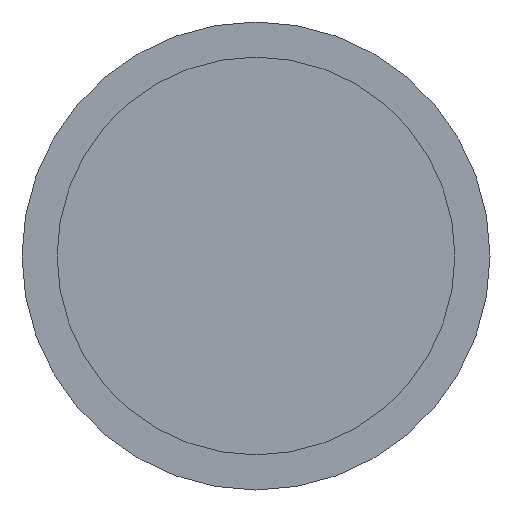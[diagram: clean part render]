
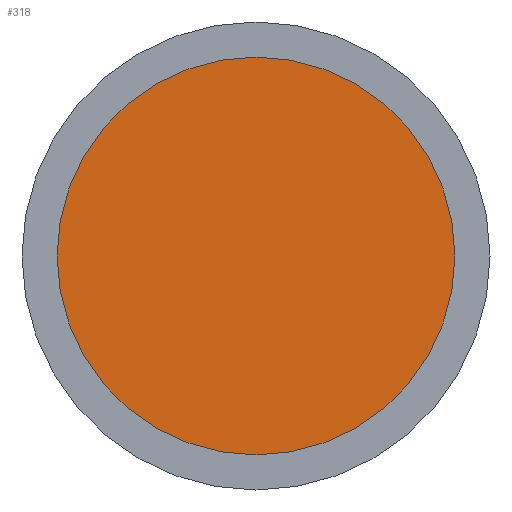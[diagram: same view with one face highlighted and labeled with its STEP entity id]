
A CAD part, left-side view. The second image highlights one B-rep face of the part: STEP entity #318.
In plain terms, the highlighted planar face has unit normal (-1, 0, 0).
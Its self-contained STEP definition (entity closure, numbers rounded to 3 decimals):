
#10 = DIRECTION ( 'NONE',  ( -1., 0., 0. ) ) ;
#56 = CARTESIAN_POINT ( 'NONE',  ( -60., 0., 0. ) ) ;
#78 = EDGE_CURVE ( 'NONE', #150, #224, #143, .T. ) ;
#85 = AXIS2_PLACEMENT_3D ( 'NONE', #289, #10, #190 ) ;
#108 = ORIENTED_EDGE ( 'NONE', *, *, #178, .T. ) ;
#109 = EDGE_LOOP ( 'NONE', ( #108, #423 ) ) ;
#123 = CIRCLE ( 'NONE', #85, 8.5 ) ;
#143 = CIRCLE ( 'NONE', #319, 8.5 ) ;
#150 = VERTEX_POINT ( 'NONE', #182 ) ;
#151 = CARTESIAN_POINT ( 'NONE',  ( -60., 0., -8.5 ) ) ;
#178 = EDGE_CURVE ( 'NONE', #224, #150, #123, .T. ) ;
#182 = CARTESIAN_POINT ( 'NONE',  ( -60., 0., 8.5 ) ) ;
#187 = FACE_OUTER_BOUND ( 'NONE', #109, .T. ) ;
#190 = DIRECTION ( 'NONE',  ( 0., 0., 1. ) ) ;
#220 = DIRECTION ( 'NONE',  ( 0., 0., 1. ) ) ;
#224 = VERTEX_POINT ( 'NONE', #151 ) ;
#241 = AXIS2_PLACEMENT_3D ( 'NONE', #56, #382, #300 ) ;
#264 = PLANE ( 'NONE',  #241 ) ;
#289 = CARTESIAN_POINT ( 'NONE',  ( -60., 0., 0. ) ) ;
#300 = DIRECTION ( 'NONE',  ( 0., 0., -1. ) ) ;
#318 = ADVANCED_FACE ( 'NONE', ( #187 ), #264, .T. ) ;
#319 = AXIS2_PLACEMENT_3D ( 'NONE', #402, #373, #220 ) ;
#373 = DIRECTION ( 'NONE',  ( -1., 0., 0. ) ) ;
#382 = DIRECTION ( 'NONE',  ( -1., 0., 0. ) ) ;
#402 = CARTESIAN_POINT ( 'NONE',  ( -60., 0., 0. ) ) ;
#423 = ORIENTED_EDGE ( 'NONE', *, *, #78, .T. ) ;
